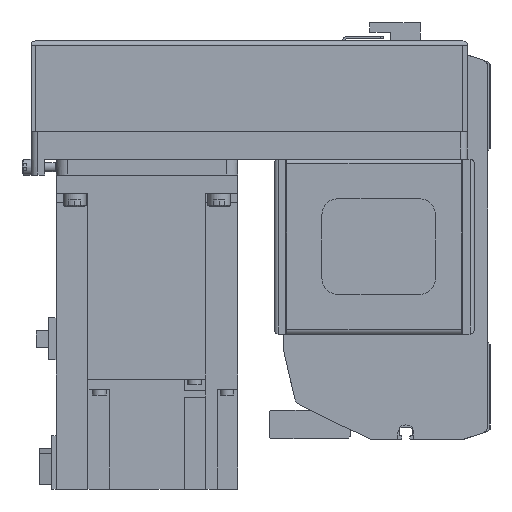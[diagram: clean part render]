
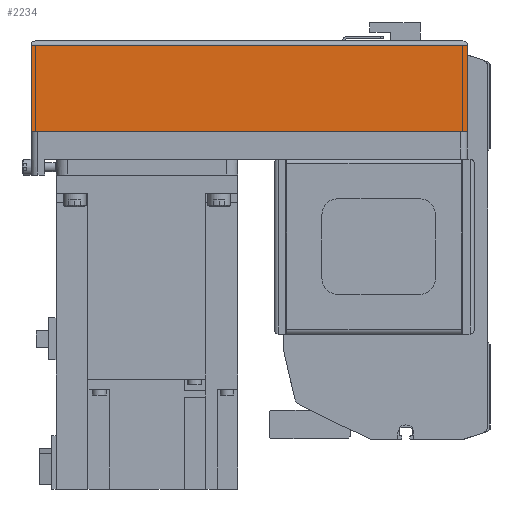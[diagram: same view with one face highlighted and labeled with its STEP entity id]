
A CAD part, left-side view. The second image highlights one B-rep face of the part: STEP entity #2234.
In plain terms, the highlighted planar face has unit normal (-1, 0, 0) as drawn and (0, 1, 0) by its records, which use the part's own axes.
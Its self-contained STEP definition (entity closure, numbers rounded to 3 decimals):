
#2234 = ADVANCED_FACE( '', ( #4921 ), #4922, .T. );
#4921 = FACE_OUTER_BOUND( '', #8105, .T. );
#4922 = PLANE( '', #8106 );
#8105 = EDGE_LOOP( '', ( #14566, #14567, #14568, #14569 ) );
#8106 = AXIS2_PLACEMENT_3D( '', #14570, #14571, #14572 );
#14566 = ORIENTED_EDGE( '', *, *, #19565, .F. );
#14567 = ORIENTED_EDGE( '', *, *, #20244, .F. );
#14568 = ORIENTED_EDGE( '', *, *, #19192, .T. );
#14569 = ORIENTED_EDGE( '', *, *, #19942, .T. );
#14570 = CARTESIAN_POINT( '', ( -192., 40., -50. ) );
#14571 = DIRECTION( '', ( 0., 1., 0. ) );
#14572 = DIRECTION( '', ( 0., 0., 1. ) );
#19192 = EDGE_CURVE( '', #23289, #23291, #23293, .T. );
#19565 = EDGE_CURVE( '', #23903, #23905, #23906, .T. );
#19942 = EDGE_CURVE( '', #23291, #23905, #24496, .T. );
#20244 = EDGE_CURVE( '', #23289, #23903, #24943, .T. );
#23289 = VERTEX_POINT( '', #29076 );
#23291 = VERTEX_POINT( '', #29079 );
#23293 = LINE( '', #29082, #29083 );
#23903 = VERTEX_POINT( '', #29937 );
#23905 = VERTEX_POINT( '', #29940 );
#23906 = LINE( '', #29941, #29942 );
#24496 = LINE( '', #30785, #30786 );
#24943 = LINE( '', #31496, #31497 );
#29076 = CARTESIAN_POINT( '', ( -192., 40., -50. ) );
#29079 = CARTESIAN_POINT( '', ( -192., 40., -12.1 ) );
#29082 = CARTESIAN_POINT( '', ( -192., 40., -50. ) );
#29083 = VECTOR( '', #35225, 1000. );
#29937 = CARTESIAN_POINT( '', ( 0., 40., -50. ) );
#29940 = CARTESIAN_POINT( '', ( 0., 40., -12.1 ) );
#29941 = CARTESIAN_POINT( '', ( 0., 40., -50. ) );
#29942 = VECTOR( '', #35718, 1000. );
#30785 = CARTESIAN_POINT( '', ( -192., 40., -12.1 ) );
#30786 = VECTOR( '', #36228, 1000. );
#31496 = CARTESIAN_POINT( '', ( -192., 40., -50. ) );
#31497 = VECTOR( '', #36570, 1000. );
#35225 = DIRECTION( '', ( 0., 0., 1. ) );
#35718 = DIRECTION( '', ( 0., 0., 1. ) );
#36228 = DIRECTION( '', ( 1., 0., 0. ) );
#36570 = DIRECTION( '', ( 1., 0., 0. ) );
